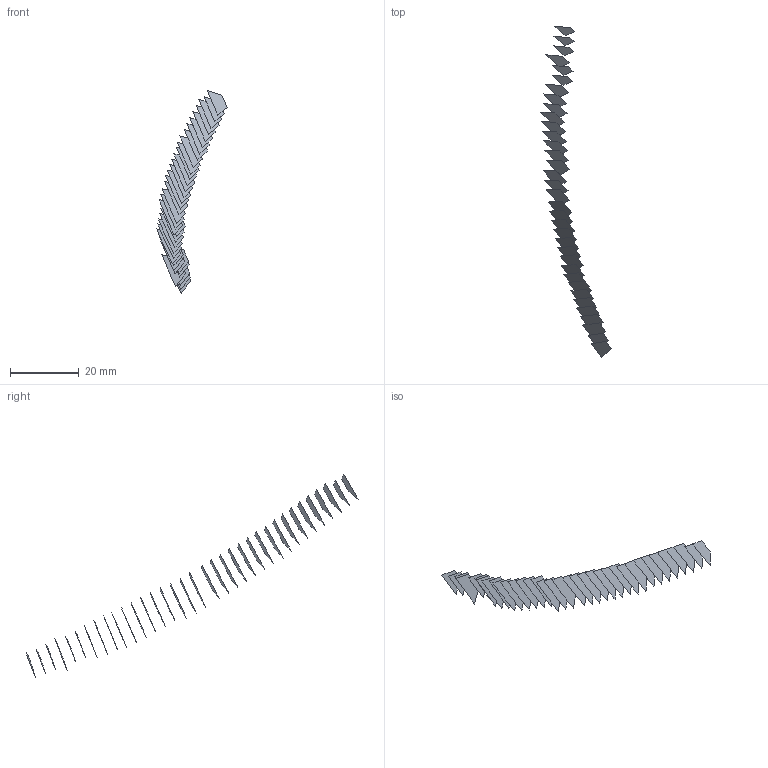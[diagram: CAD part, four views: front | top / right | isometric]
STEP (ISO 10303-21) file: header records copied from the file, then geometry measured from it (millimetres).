
FILE_DESCRIPTION(('FreeCAD Model'),'2;1');
FILE_NAME('Open CASCADE Shape Model','2022-05-22T07:50:29',('FreeCAD'),( 'FreeCAD'),'Open CASCADE STEP processor 7.5','FreeCAD','Unknown');
FILE_SCHEMA(('AUTOMOTIVE_DESIGN { 1 0 10303 214 1 1 1 1 }'));
Length unit declared in the file: millimetre
Products named in the file (36): Open CASCADE STEP translator 7.5 7; Open CASCADE STEP translator 7.5 7.1; Open CASCADE STEP translator 7.5 7.2; Open CASCADE STEP translator 7.5 7.3; Open CASCADE STEP translator 7.5 7.4; Open CASCADE STEP translator 7.5 7.5; Open CASCADE STEP translator 7.5 7.6; Open CASCADE STEP translator 7.5 7.7; Open CASCADE STEP translator 7.5 7.8; Open CASCADE STEP translator 7.5 7.9; Open CASCADE STEP translator 7.5 7.10; Open CASCADE STEP translator 7.5 7.11; Open CASCADE STEP translator 7.5 7.12; Open CASCADE STEP translator 7.5 7.13; Open CASCADE STEP translator 7.5 7.14; Open CASCADE STEP translator 7.5 7.15; Open CASCADE STEP translator 7.5 7.16; Open CASCADE STEP translator 7.5 7.17; Open CASCADE STEP translator 7.5 7.18; Open CASCADE STEP translator 7.5 7.19; Open CASCADE STEP translator 7.5 7.20; Open CASCADE STEP translator 7.5 7.21; Open CASCADE STEP translator 7.5 7.22; Open CASCADE STEP translator 7.5 7.23; Open CASCADE STEP translator 7.5 7.24; Open CASCADE STEP translator 7.5 7.25; Open CASCADE STEP translator 7.5 7.26; Open CASCADE STEP translator 7.5 7.27; Open CASCADE STEP translator 7.5 7.28; Open CASCADE STEP translator 7.5 7.29; Open CASCADE STEP translator 7.5 7.30; Open CASCADE STEP translator 7.5 7.31; Open CASCADE STEP translator 7.5 7.32; Open CASCADE STEP translator 7.5 7.33; Open CASCADE STEP translator 7.5 7.34; Open CASCADE STEP translator 7.5 7.35
Assembly tree (35 placements, depth 2):
  Open CASCADE STEP translator 7.5 7
    Open CASCADE STEP translator 7.5 7.1
    Open CASCADE STEP translator 7.5 7.2
    Open CASCADE STEP translator 7.5 7.3
    Open CASCADE STEP translator 7.5 7.4
    Open CASCADE STEP translator 7.5 7.5
    Open CASCADE STEP translator 7.5 7.6
    Open CASCADE STEP translator 7.5 7.7
    Open CASCADE STEP translator 7.5 7.8
    Open CASCADE STEP translator 7.5 7.9
    Open CASCADE STEP translator 7.5 7.10
    Open CASCADE STEP translator 7.5 7.11
    Open CASCADE STEP translator 7.5 7.12
    Open CASCADE STEP translator 7.5 7.13
    Open CASCADE STEP translator 7.5 7.14
    Open CASCADE STEP translator 7.5 7.15
    Open CASCADE STEP translator 7.5 7.16
    Open CASCADE STEP translator 7.5 7.17
    Open CASCADE STEP translator 7.5 7.18
    Open CASCADE STEP translator 7.5 7.19
    Open CASCADE STEP translator 7.5 7.20
    Open CASCADE STEP translator 7.5 7.21
    Open CASCADE STEP translator 7.5 7.22
    Open CASCADE STEP translator 7.5 7.23
    Open CASCADE STEP translator 7.5 7.24
    Open CASCADE STEP translator 7.5 7.25
    Open CASCADE STEP translator 7.5 7.26
    Open CASCADE STEP translator 7.5 7.27
    Open CASCADE STEP translator 7.5 7.28
    Open CASCADE STEP translator 7.5 7.29
    Open CASCADE STEP translator 7.5 7.30
    Open CASCADE STEP translator 7.5 7.31
    Open CASCADE STEP translator 7.5 7.32
    Open CASCADE STEP translator 7.5 7.33
    Open CASCADE STEP translator 7.5 7.34
    Open CASCADE STEP translator 7.5 7.35
Bounding box: 20.53 x 96.69 x 59.17 mm (x, y, z)
Surface area: 1148.8 mm2 (no closed solid volume)
Topology: 0 solids, 35 shells, 35 faces, 357 edges, 357 vertices
Faces by surface type: bspline 35
Entity records: 5637 total; most frequent: CARTESIAN_POINT 1961, B_SPLINE_CURVE_WITH_KNOTS 714, ORIENTED_EDGE 357, EDGE_CURVE 357, VERTEX_POINT 357, SURFACE_CURVE 357, PCURVE 357, DEFINITIONAL_REPRESENTATION 357
